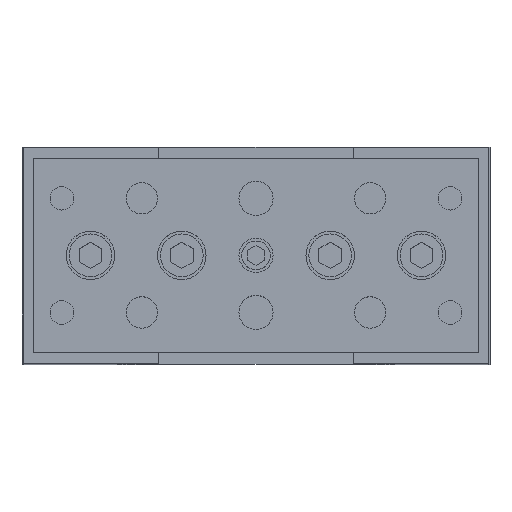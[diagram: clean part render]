
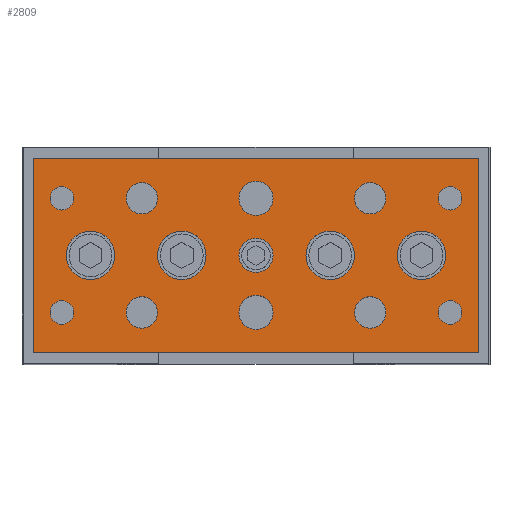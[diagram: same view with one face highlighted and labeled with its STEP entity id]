
A CAD part, top view. The second image highlights one B-rep face of the part: STEP entity #2809.
In plain terms, the highlighted planar face has unit normal (0, 0, 1).
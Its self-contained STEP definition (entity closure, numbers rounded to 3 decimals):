
#770=CARTESIAN_POINT('',(22.75,-10.0,651.0));
#771=VERTEX_POINT('',#770);
#772=CARTESIAN_POINT('',(20.,-10.0,651.0));
#773=DIRECTION('',(0.0,0.0,-1.0));
#774=DIRECTION('',(-1.0,0.0,0.0));
#775=AXIS2_PLACEMENT_3D('',#772,#773,#774);
#776=CIRCLE('',#775,2.75);
#777=EDGE_CURVE('',#771,#771,#776,.T.);
#880=CARTESIAN_POINT('',(-17.25,-10.0,651.0));
#881=VERTEX_POINT('',#880);
#882=CARTESIAN_POINT('',(-20.,-10.0,651.0));
#883=DIRECTION('',(0.0,0.0,-1.0));
#884=DIRECTION('',(-1.0,0.0,0.0));
#885=AXIS2_PLACEMENT_3D('',#882,#883,#884);
#886=CIRCLE('',#885,2.75);
#887=EDGE_CURVE('',#881,#881,#886,.T.);
#990=CARTESIAN_POINT('',(22.75,10.0,651.0));
#991=VERTEX_POINT('',#990);
#992=CARTESIAN_POINT('',(20.,10.0,651.0));
#993=DIRECTION('',(0.0,0.0,-1.0));
#994=DIRECTION('',(-1.0,0.0,0.0));
#995=AXIS2_PLACEMENT_3D('',#992,#993,#994);
#996=CIRCLE('',#995,2.75);
#997=EDGE_CURVE('',#991,#991,#996,.T.);
#1100=CARTESIAN_POINT('',(-17.25,10.0,651.0));
#1101=VERTEX_POINT('',#1100);
#1102=CARTESIAN_POINT('',(-20.,10.0,651.0));
#1103=DIRECTION('',(0.0,0.0,-1.0));
#1104=DIRECTION('',(-1.0,0.0,0.0));
#1105=AXIS2_PLACEMENT_3D('',#1102,#1103,#1104);
#1106=CIRCLE('',#1105,2.75);
#1107=EDGE_CURVE('',#1101,#1101,#1106,.T.);
#1131=CARTESIAN_POINT('',(3.,-10.0,651.0));
#1132=VERTEX_POINT('',#1131);
#1133=CARTESIAN_POINT('',(0.,-10.0,651.0));
#1134=DIRECTION('',(0.0,0.0,-1.0));
#1135=DIRECTION('',(-1.0,0.0,0.0));
#1136=AXIS2_PLACEMENT_3D('',#1133,#1134,#1135);
#1137=CIRCLE('',#1136,3.);
#1138=EDGE_CURVE('',#1132,#1132,#1137,.T.);
#1168=CARTESIAN_POINT('',(3.,10.0,651.0));
#1169=VERTEX_POINT('',#1168);
#1170=CARTESIAN_POINT('',(0.,10.0,651.0));
#1171=DIRECTION('',(0.0,0.0,-1.0));
#1172=DIRECTION('',(-1.0,0.0,0.0));
#1173=AXIS2_PLACEMENT_3D('',#1170,#1171,#1172);
#1174=CIRCLE('',#1173,3.);
#1175=EDGE_CURVE('',#1169,#1169,#1174,.T.);
#1226=CARTESIAN_POINT('',(-31.933,10.0,651.0));
#1227=VERTEX_POINT('',#1226);
#1228=CARTESIAN_POINT('',(-34.,10.0,651.0));
#1229=DIRECTION('',(0.0,0.0,-1.0));
#1230=DIRECTION('',(1.0,0.0,0.0));
#1231=AXIS2_PLACEMENT_3D('',#1228,#1229,#1230);
#1232=CIRCLE('',#1231,2.067);
#1233=EDGE_CURVE('',#1227,#1227,#1232,.T.);
#1275=CARTESIAN_POINT('',(36.067,10.0,651.0));
#1276=VERTEX_POINT('',#1275);
#1277=CARTESIAN_POINT('',(34.,10.0,651.0));
#1278=DIRECTION('',(0.0,0.0,-1.0));
#1279=DIRECTION('',(1.0,0.0,0.0));
#1280=AXIS2_PLACEMENT_3D('',#1277,#1278,#1279);
#1281=CIRCLE('',#1280,2.067);
#1282=EDGE_CURVE('',#1276,#1276,#1281,.T.);
#1324=CARTESIAN_POINT('',(-31.933,-10.0,651.0));
#1325=VERTEX_POINT('',#1324);
#1326=CARTESIAN_POINT('',(-34.,-10.0,651.0));
#1327=DIRECTION('',(0.0,0.0,-1.0));
#1328=DIRECTION('',(1.0,0.0,0.0));
#1329=AXIS2_PLACEMENT_3D('',#1326,#1327,#1328);
#1330=CIRCLE('',#1329,2.067);
#1331=EDGE_CURVE('',#1325,#1325,#1330,.T.);
#1373=CARTESIAN_POINT('',(36.067,-10.0,651.0));
#1374=VERTEX_POINT('',#1373);
#1375=CARTESIAN_POINT('',(34.,-10.0,651.0));
#1376=DIRECTION('',(0.0,0.0,-1.0));
#1377=DIRECTION('',(1.0,0.0,0.0));
#1378=AXIS2_PLACEMENT_3D('',#1375,#1376,#1377);
#1379=CIRCLE('',#1378,2.067);
#1380=EDGE_CURVE('',#1374,#1374,#1379,.T.);
#2029=CARTESIAN_POINT('',(3.,0.,651.0));
#2030=VERTEX_POINT('',#2029);
#2031=CARTESIAN_POINT('',(0.,0.0,651.0));
#2032=DIRECTION('',(0.0,0.0,-1.0));
#2033=DIRECTION('',(-1.0,0.0,0.0));
#2034=AXIS2_PLACEMENT_3D('',#2031,#2032,#2033);
#2035=CIRCLE('',#2034,3.);
#2036=EDGE_CURVE('',#2030,#2030,#2035,.T.);
#2097=CARTESIAN_POINT('',(17.25,0.,651.0));
#2098=VERTEX_POINT('',#2097);
#2099=CARTESIAN_POINT('',(13.,0.0,651.0));
#2100=DIRECTION('',(0.0,0.0,-1.0));
#2101=DIRECTION('',(-1.0,0.0,0.0));
#2102=AXIS2_PLACEMENT_3D('',#2099,#2100,#2101);
#2103=CIRCLE('',#2102,4.25);
#2104=EDGE_CURVE('',#2098,#2098,#2103,.T.);
#2165=CARTESIAN_POINT('',(-8.75,0.,651.0));
#2166=VERTEX_POINT('',#2165);
#2167=CARTESIAN_POINT('',(-13.,0.0,651.0));
#2168=DIRECTION('',(0.0,0.0,-1.0));
#2169=DIRECTION('',(-1.0,0.0,0.0));
#2170=AXIS2_PLACEMENT_3D('',#2167,#2168,#2169);
#2171=CIRCLE('',#2170,4.25);
#2172=EDGE_CURVE('',#2166,#2166,#2171,.T.);
#2233=CARTESIAN_POINT('',(33.25,0.,651.0));
#2234=VERTEX_POINT('',#2233);
#2235=CARTESIAN_POINT('',(29.,0.0,651.0));
#2236=DIRECTION('',(0.0,0.0,-1.0));
#2237=DIRECTION('',(-1.0,0.0,0.0));
#2238=AXIS2_PLACEMENT_3D('',#2235,#2236,#2237);
#2239=CIRCLE('',#2238,4.25);
#2240=EDGE_CURVE('',#2234,#2234,#2239,.T.);
#2301=CARTESIAN_POINT('',(-24.75,0.,651.0));
#2302=VERTEX_POINT('',#2301);
#2303=CARTESIAN_POINT('',(-29.,0.0,651.0));
#2304=DIRECTION('',(0.0,0.0,-1.0));
#2305=DIRECTION('',(-1.0,0.0,0.0));
#2306=AXIS2_PLACEMENT_3D('',#2303,#2304,#2305);
#2307=CIRCLE('',#2306,4.25);
#2308=EDGE_CURVE('',#2302,#2302,#2307,.T.);
#2725=CARTESIAN_POINT('',(39.,0.0,651.0));
#2726=DIRECTION('',(0.0,0.0,1.0));
#2727=DIRECTION('',(1.0,0.0,0.0));
#2728=AXIS2_PLACEMENT_3D('',#2725,#2726,#2727);
#2729=PLANE('',#2728);
#2730=CARTESIAN_POINT('',(39.,17.0,651.0));
#2731=VERTEX_POINT('',#2730);
#2732=CARTESIAN_POINT('',(-39.,17.0,651.0));
#2733=VERTEX_POINT('',#2732);
#2734=CARTESIAN_POINT('',(39.,17.0,651.0));
#2735=DIRECTION('',(-1.0,0.0,0.0));
#2736=VECTOR('',#2735,78.);
#2737=LINE('',#2734,#2736);
#2738=EDGE_CURVE('',#2731,#2733,#2737,.T.);
#2739=ORIENTED_EDGE('',*,*,#2738,.T.);
#2740=CARTESIAN_POINT('',(-39.,-17.0,651.0));
#2741=VERTEX_POINT('',#2740);
#2742=CARTESIAN_POINT('',(-39.,17.0,651.0));
#2743=DIRECTION('',(0.0,-1.0,0.0));
#2744=VECTOR('',#2743,34.0);
#2745=LINE('',#2742,#2744);
#2746=EDGE_CURVE('',#2733,#2741,#2745,.T.);
#2747=ORIENTED_EDGE('',*,*,#2746,.T.);
#2748=CARTESIAN_POINT('',(39.,-17.0,651.0));
#2749=VERTEX_POINT('',#2748);
#2750=CARTESIAN_POINT('',(-39.,-17.0,651.0));
#2751=DIRECTION('',(1.0,0.0,0.0));
#2752=VECTOR('',#2751,78.);
#2753=LINE('',#2750,#2752);
#2754=EDGE_CURVE('',#2741,#2749,#2753,.T.);
#2755=ORIENTED_EDGE('',*,*,#2754,.T.);
#2756=CARTESIAN_POINT('',(39.,-17.0,651.0));
#2757=DIRECTION('',(0.0,1.0,0.0));
#2758=VECTOR('',#2757,34.0);
#2759=LINE('',#2756,#2758);
#2760=EDGE_CURVE('',#2749,#2731,#2759,.T.);
#2761=ORIENTED_EDGE('',*,*,#2760,.T.);
#2762=EDGE_LOOP('',(#2739,#2747,#2755,#2761));
#2763=FACE_OUTER_BOUND('',#2762,.T.);
#2764=ORIENTED_EDGE('',*,*,#777,.T.);
#2765=EDGE_LOOP('',(#2764));
#2766=FACE_BOUND('',#2765,.T.);
#2767=ORIENTED_EDGE('',*,*,#887,.T.);
#2768=EDGE_LOOP('',(#2767));
#2769=FACE_BOUND('',#2768,.T.);
#2770=ORIENTED_EDGE('',*,*,#997,.T.);
#2771=EDGE_LOOP('',(#2770));
#2772=FACE_BOUND('',#2771,.T.);
#2773=ORIENTED_EDGE('',*,*,#1107,.T.);
#2774=EDGE_LOOP('',(#2773));
#2775=FACE_BOUND('',#2774,.T.);
#2776=ORIENTED_EDGE('',*,*,#1138,.T.);
#2777=EDGE_LOOP('',(#2776));
#2778=FACE_BOUND('',#2777,.T.);
#2779=ORIENTED_EDGE('',*,*,#1175,.T.);
#2780=EDGE_LOOP('',(#2779));
#2781=FACE_BOUND('',#2780,.T.);
#2782=ORIENTED_EDGE('',*,*,#1233,.T.);
#2783=EDGE_LOOP('',(#2782));
#2784=FACE_BOUND('',#2783,.T.);
#2785=ORIENTED_EDGE('',*,*,#1282,.T.);
#2786=EDGE_LOOP('',(#2785));
#2787=FACE_BOUND('',#2786,.T.);
#2788=ORIENTED_EDGE('',*,*,#1331,.T.);
#2789=EDGE_LOOP('',(#2788));
#2790=FACE_BOUND('',#2789,.T.);
#2791=ORIENTED_EDGE('',*,*,#1380,.T.);
#2792=EDGE_LOOP('',(#2791));
#2793=FACE_BOUND('',#2792,.T.);
#2794=ORIENTED_EDGE('',*,*,#2308,.T.);
#2795=EDGE_LOOP('',(#2794));
#2796=FACE_BOUND('',#2795,.T.);
#2797=ORIENTED_EDGE('',*,*,#2240,.T.);
#2798=EDGE_LOOP('',(#2797));
#2799=FACE_BOUND('',#2798,.T.);
#2800=ORIENTED_EDGE('',*,*,#2172,.T.);
#2801=EDGE_LOOP('',(#2800));
#2802=FACE_BOUND('',#2801,.T.);
#2803=ORIENTED_EDGE('',*,*,#2104,.T.);
#2804=EDGE_LOOP('',(#2803));
#2805=FACE_BOUND('',#2804,.T.);
#2806=ORIENTED_EDGE('',*,*,#2036,.T.);
#2807=EDGE_LOOP('',(#2806));
#2808=FACE_BOUND('',#2807,.T.);
#2809=ADVANCED_FACE('',(#2763,#2766,#2769,#2772,#2775,#2778,#2781,#2784,#2787,#2790,#2793,#2796,#2799,#2802,#2805,#2808),#2729,.T.);
